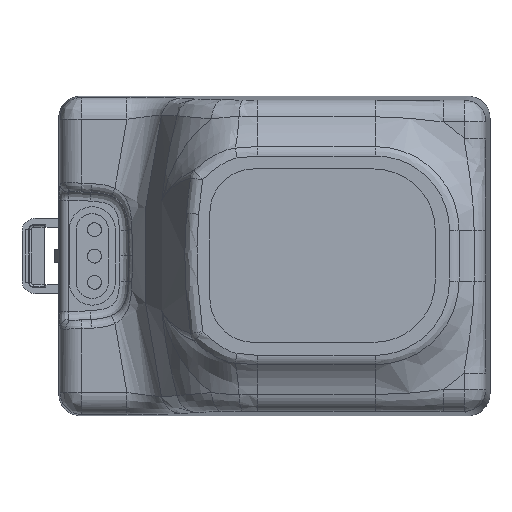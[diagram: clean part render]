
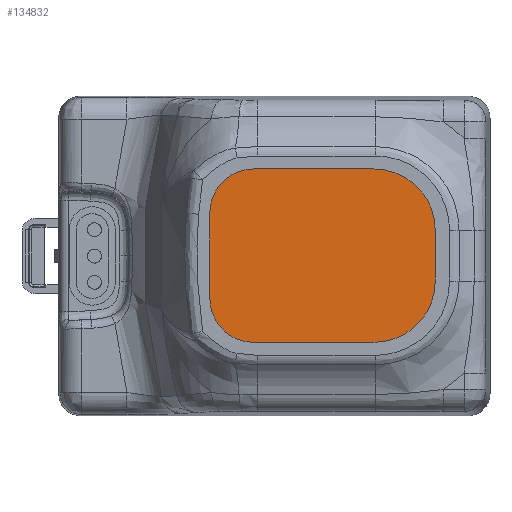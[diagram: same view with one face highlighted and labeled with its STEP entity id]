
A CAD part, top view. The second image highlights one B-rep face of the part: STEP entity #134832.
In plain terms, the highlighted planar face has unit normal (0, 0, 1).
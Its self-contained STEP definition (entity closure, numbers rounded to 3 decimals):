
#749 = CARTESIAN_POINT ( 'NONE',  ( -9.8, 1466.625, 43.2 ) ) ;
#1930 = DIRECTION ( 'NONE',  ( 1., 0., 0. ) ) ;
#2115 = EDGE_CURVE ( 'NONE', #71166, #8156, #167890, .T. ) ;
#2814 = ORIENTED_EDGE ( 'NONE', *, *, #50402, .F. ) ;
#4681 = DIRECTION ( 'NONE',  ( 0., 0., 1. ) ) ;
#8156 = VERTEX_POINT ( 'NONE', #89022 ) ;
#14317 = DIRECTION ( 'NONE',  ( 1., 0., 0. ) ) ;
#17145 = DIRECTION ( 'NONE',  ( 0., -1., 0. ) ) ;
#19328 = CARTESIAN_POINT ( 'NONE',  ( -19.8, 1429.125, 43.2 ) ) ;
#20095 = DIRECTION ( 'NONE',  ( 1., 0., 0. ) ) ;
#20399 = VECTOR ( 'NONE', #17145, 1000. ) ;
#24819 = PLANE ( 'NONE',  #136478 ) ;
#24834 = VERTEX_POINT ( 'NONE', #19328 ) ;
#25012 = ORIENTED_EDGE ( 'NONE', *, *, #37901, .T. ) ;
#37327 = DIRECTION ( 'NONE',  ( 0., 0., 1. ) ) ;
#37901 = EDGE_CURVE ( 'NONE', #71660, #183634, #169952, .T. ) ;
#45337 = CIRCLE ( 'NONE', #157577, 10. ) ;
#45727 = CARTESIAN_POINT ( 'NONE',  ( 5.8, 1429.125, 43.2 ) ) ;
#46280 = ORIENTED_EDGE ( 'NONE', *, *, #154587, .F. ) ;
#47783 = CARTESIAN_POINT ( 'NONE',  ( -19.8, 1456.625, 43.2 ) ) ;
#49184 = CARTESIAN_POINT ( 'NONE',  ( 19.8, 1429.125, 43.2 ) ) ;
#50402 = EDGE_CURVE ( 'NONE', #24834, #183634, #159700, .T. ) ;
#55116 = AXIS2_PLACEMENT_3D ( 'NONE', #111612, #37327, #110632 ) ;
#57270 = CARTESIAN_POINT ( 'NONE',  ( 9.8, 1466.625, 43.2 ) ) ;
#59015 = CARTESIAN_POINT ( 'NONE',  ( 19.8, 1456.625, 43.2 ) ) ;
#61333 = ORIENTED_EDGE ( 'NONE', *, *, #2115, .F. ) ;
#65725 = CARTESIAN_POINT ( 'NONE',  ( 9.8, 1466.625, 43.2 ) ) ;
#66837 = DIRECTION ( 'NONE',  ( 1., 0., 0. ) ) ;
#71166 = VERTEX_POINT ( 'NONE', #100879 ) ;
#71660 = VERTEX_POINT ( 'NONE', #749 ) ;
#78790 = CARTESIAN_POINT ( 'NONE',  ( 19.8, 1456.625, 43.2 ) ) ;
#78938 = CIRCLE ( 'NONE', #103304, 14. ) ;
#79929 = LINE ( 'NONE', #65725, #184964 ) ;
#86329 = CARTESIAN_POINT ( 'NONE',  ( -19.8, 1456.625, 43.2 ) ) ;
#89022 = CARTESIAN_POINT ( 'NONE',  ( -5.8, 1415.125, 43.2 ) ) ;
#96804 = VECTOR ( 'NONE', #142582, 1000. ) ;
#100824 = EDGE_CURVE ( 'NONE', #71166, #167430, #78938, .T. ) ;
#100879 = CARTESIAN_POINT ( 'NONE',  ( 5.8, 1415.125, 43.2 ) ) ;
#103304 = AXIS2_PLACEMENT_3D ( 'NONE', #45727, #4681, #1930 ) ;
#105981 = DIRECTION ( 'NONE',  ( -1., 0., 0. ) ) ;
#108036 = VERTEX_POINT ( 'NONE', #78790 ) ;
#108675 = CARTESIAN_POINT ( 'NONE',  ( -9.8, 1456.625, 43.2 ) ) ;
#108781 = ORIENTED_EDGE ( 'NONE', *, *, #149429, .F. ) ;
#110632 = DIRECTION ( 'NONE',  ( 1., 0., 0. ) ) ;
#111612 = CARTESIAN_POINT ( 'NONE',  ( -5.8, 1429.125, 43.2 ) ) ;
#131151 = CIRCLE ( 'NONE', #55116, 14. ) ;
#134832 = ADVANCED_FACE ( 'NONE', ( #183060 ), #24819, .T. ) ;
#136478 = AXIS2_PLACEMENT_3D ( 'NONE', #170548, #144735, #14317 ) ;
#141642 = EDGE_CURVE ( 'NONE', #108036, #186017, #45337, .T. ) ;
#142582 = DIRECTION ( 'NONE',  ( 0., 1., 0. ) ) ;
#142656 = DIRECTION ( 'NONE',  ( 1., 0., 0. ) ) ;
#144735 = DIRECTION ( 'NONE',  ( 0., 0., 1. ) ) ;
#146129 = ORIENTED_EDGE ( 'NONE', *, *, #141642, .T. ) ;
#147802 = ORIENTED_EDGE ( 'NONE', *, *, #100824, .T. ) ;
#148000 = ORIENTED_EDGE ( 'NONE', *, *, #181324, .T. ) ;
#149429 = EDGE_CURVE ( 'NONE', #71660, #186017, #79929, .T. ) ;
#150501 = VECTOR ( 'NONE', #105981, 1000. ) ;
#152640 = CARTESIAN_POINT ( 'NONE',  ( 5.8, 1415.125, 43.2 ) ) ;
#154587 = EDGE_CURVE ( 'NONE', #108036, #167430, #187770, .T. ) ;
#156923 = CARTESIAN_POINT ( 'NONE',  ( 9.8, 1456.625, 43.2 ) ) ;
#157577 = AXIS2_PLACEMENT_3D ( 'NONE', #156923, #157862, #142656 ) ;
#157862 = DIRECTION ( 'NONE',  ( 0., 0., 1. ) ) ;
#159700 = LINE ( 'NONE', #86329, #96804 ) ;
#160825 = AXIS2_PLACEMENT_3D ( 'NONE', #108675, #166892, #66837 ) ;
#166892 = DIRECTION ( 'NONE',  ( 0., 0., 1. ) ) ;
#167430 = VERTEX_POINT ( 'NONE', #49184 ) ;
#167890 = LINE ( 'NONE', #152640, #150501 ) ;
#169952 = CIRCLE ( 'NONE', #160825, 10. ) ;
#170548 = CARTESIAN_POINT ( 'NONE',  ( 22.762, 1455.749, 43.2 ) ) ;
#181324 = EDGE_CURVE ( 'NONE', #24834, #8156, #131151, .T. ) ;
#183060 = FACE_OUTER_BOUND ( 'NONE', #187153, .T. ) ;
#183634 = VERTEX_POINT ( 'NONE', #47783 ) ;
#184964 = VECTOR ( 'NONE', #20095, 1000. ) ;
#186017 = VERTEX_POINT ( 'NONE', #57270 ) ;
#187153 = EDGE_LOOP ( 'NONE', ( #148000, #61333, #147802, #46280, #146129, #108781, #25012, #2814 ) ) ;
#187770 = LINE ( 'NONE', #59015, #20399 ) ;
